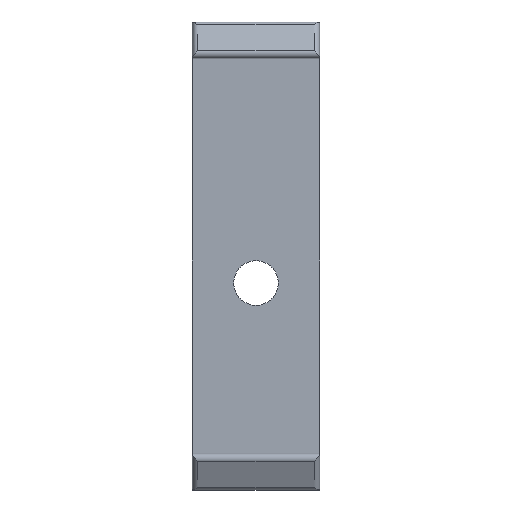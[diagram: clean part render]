
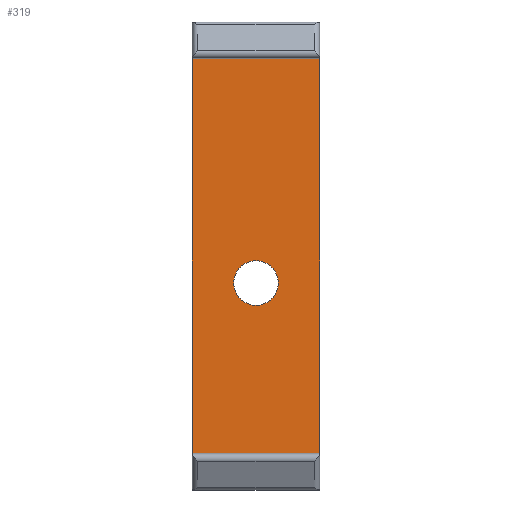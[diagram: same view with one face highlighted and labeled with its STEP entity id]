
A CAD part, top view. The second image highlights one B-rep face of the part: STEP entity #319.
In plain terms, the highlighted planar face has unit normal (0, 0, 1).
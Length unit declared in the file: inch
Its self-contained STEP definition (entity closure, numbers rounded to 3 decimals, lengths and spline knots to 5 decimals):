
#16=FACE_BOUND('',#60,.T.);
#24=PLANE('',#356);
#41=FACE_OUTER_BOUND('',#59,.T.);
#59=EDGE_LOOP('',(#285,#286,#287,#288));
#60=EDGE_LOOP('',(#289));
#71=CIRCLE('',#354,0.0825);
#90=LINE('',#493,#116);
#95=LINE('',#506,#121);
#105=LINE('',#537,#131);
#106=LINE('',#539,#132);
#116=VECTOR('',#395,0.3937);
#121=VECTOR('',#406,0.3937);
#131=VECTOR('',#440,0.3937);
#132=VECTOR('',#443,0.3937);
#145=VERTEX_POINT('',#490);
#146=VERTEX_POINT('',#492);
#151=VERTEX_POINT('',#504);
#160=VERTEX_POINT('',#535);
#161=VERTEX_POINT('',#542);
#180=EDGE_CURVE('',#146,#145,#90,.T.);
#187=EDGE_CURVE('',#145,#151,#95,.T.);
#203=EDGE_CURVE('',#151,#160,#105,.T.);
#204=EDGE_CURVE('',#160,#146,#106,.T.);
#205=EDGE_CURVE('',#161,#161,#71,.T.);
#285=ORIENTED_EDGE('',*,*,#204,.T.);
#286=ORIENTED_EDGE('',*,*,#180,.T.);
#287=ORIENTED_EDGE('',*,*,#187,.T.);
#288=ORIENTED_EDGE('',*,*,#203,.T.);
#289=ORIENTED_EDGE('',*,*,#205,.T.);
#319=ADVANCED_FACE('',(#41,#16),#24,.T.);
#354=AXIS2_PLACEMENT_3D('',#543,#448,#449);
#356=AXIS2_PLACEMENT_3D('',#546,#452,#453);
#395=DIRECTION('',(0.,-1.,0.));
#406=DIRECTION('',(1.,0.,0.));
#440=DIRECTION('',(0.,1.,0.));
#443=DIRECTION('',(-1.,0.,0.));
#448=DIRECTION('center_axis',(0.,0.,-1.));
#449=DIRECTION('ref_axis',(1.,0.,0.));
#452=DIRECTION('center_axis',(0.,0.,1.));
#453=DIRECTION('ref_axis',(1.,0.,0.));
#490=CARTESIAN_POINT('',(-0.235,-0.63,0.04));
#492=CARTESIAN_POINT('',(-0.235,0.83,0.04));
#493=CARTESIAN_POINT('',(-0.235,0.83,0.04));
#504=CARTESIAN_POINT('',(0.235,-0.63,0.04));
#506=CARTESIAN_POINT('',(0.235,-0.63,0.04));
#535=CARTESIAN_POINT('',(0.235,0.83,0.04));
#537=CARTESIAN_POINT('',(0.235,-0.63,0.04));
#539=CARTESIAN_POINT('',(0.235,0.83,0.04));
#542=CARTESIAN_POINT('',(-0.0825,0.,0.04));
#543=CARTESIAN_POINT('Origin',(0.,0.,0.04));
#546=CARTESIAN_POINT('Origin',(0.,0.1,0.04));
